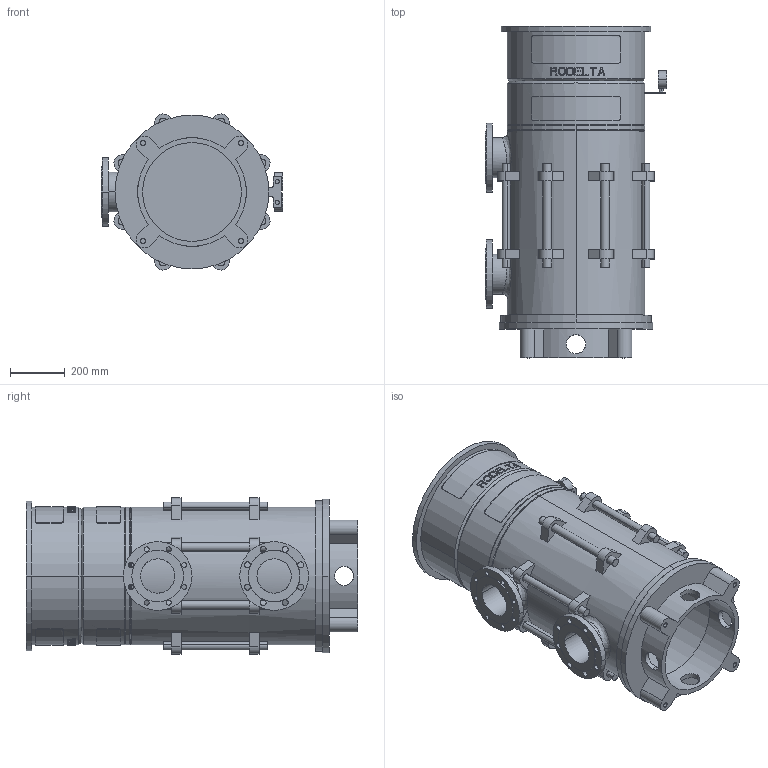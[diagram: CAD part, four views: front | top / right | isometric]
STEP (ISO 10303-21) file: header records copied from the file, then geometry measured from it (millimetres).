
FILE_DESCRIPTION((''),'2;1');
FILE_NAME('LS5_3TR_0GR_ABOVE_30KW','2023-08-08T',('Lyritlocal'),(''),'PRO/ENGINEER BY PARAMETRIC TECHNOLOGY CORPORATION, 2016360','PRO/ENGINEER BY PARAMETRIC TECHNOLOGY CORPORATION, 2016360','');
FILE_SCHEMA(('CONFIG_CONTROL_DESIGN'));
Length unit declared in the file: millimetre
Products named in the file (1): LS5_3TR_0GR_ABOVE_30KW
Bounding box: 660 x 1208 x 568.08 mm (x, y, z)
Volume: 38937231.9 mm3; surface area: 5500545.8 mm2
Topology: 3 solids, 7 shells, 672 faces, 1747 edges, 1158 vertices
Faces by surface type: plane 414, cylinder 242, cone 12, bspline 4
Entity records: 21988 total; most frequent: CARTESIAN_POINT 5544, ORIENTED_EDGE 3478, DIRECTION 3269, EDGE_CURVE 1747, AXIS2_PLACEMENT_3D 1241, VERTEX_POINT 1158, EDGE_LOOP 809, VECTOR 787
